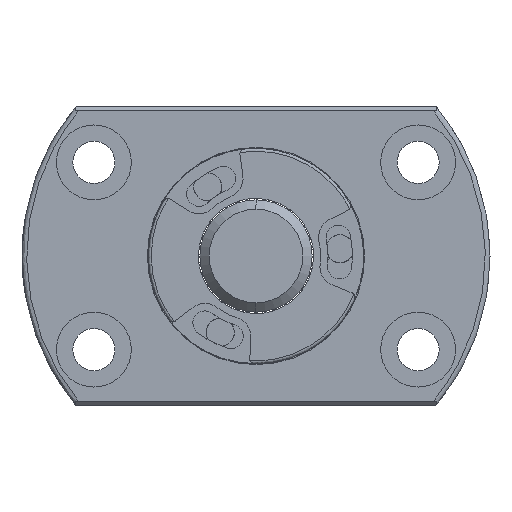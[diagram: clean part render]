
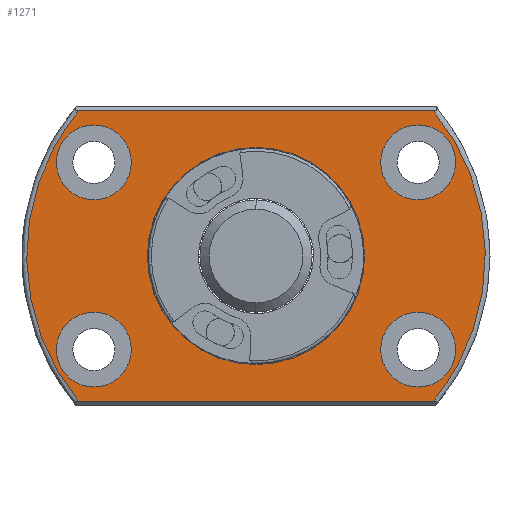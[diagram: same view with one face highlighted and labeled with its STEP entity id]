
A CAD part, left-side view. The second image highlights one B-rep face of the part: STEP entity #1271.
In plain terms, the highlighted planar face has unit normal (-1, 0, 0).
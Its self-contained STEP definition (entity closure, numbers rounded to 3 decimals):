
#17 = FACE_BOUND ( 'NONE', #4323, .T. ) ;
#93 = CARTESIAN_POINT ( 'NONE',  ( 0., 0., 0. ) ) ;
#102 = AXIS2_PLACEMENT_3D ( 'NONE', #6878, #5835, #3537 ) ;
#110 = CARTESIAN_POINT ( 'NONE',  ( 0., 26.668, -6.081 ) ) ;
#185 = DIRECTION ( 'NONE',  ( 0., 1., 0. ) ) ;
#194 = VERTEX_POINT ( 'NONE', #5589 ) ;
#229 = CARTESIAN_POINT ( 'NONE',  ( 0., 17.321, -10. ) ) ;
#290 = DIRECTION ( 'NONE',  ( 0., 0., 1. ) ) ;
#422 = CARTESIAN_POINT ( 'NONE',  ( 0., -17.321, 14. ) ) ;
#425 = EDGE_CURVE ( 'NONE', #2290, #4783, #555, .T. ) ;
#453 = EDGE_LOOP ( 'NONE', ( #4914, #2298, #5919, #2986 ) ) ;
#465 = CARTESIAN_POINT ( 'NONE',  ( 0., 17.321, 6. ) ) ;
#525 = CIRCLE ( 'NONE', #102, 4. ) ;
#541 = VERTEX_POINT ( 'NONE', #5999 ) ;
#553 = AXIS2_PLACEMENT_3D ( 'NONE', #6451, #6405, #5291 ) ;
#555 =( BOUNDED_CURVE ( )  B_SPLINE_CURVE ( 3, ( #3068, #5305, #5897, #4760 ),
 .UNSPECIFIED., .F., .T. ) 
 B_SPLINE_CURVE_WITH_KNOTS ( ( 4, 4 ),
 ( 0., 1. ),
 .UNSPECIFIED. ) 
 CURVE ( )  GEOMETRIC_REPRESENTATION_ITEM ( )  RATIONAL_B_SPLINE_CURVE ( ( 1., 0.85, 0.85, 1. ) ) 
 REPRESENTATION_ITEM ( '' )  );
#754 = CARTESIAN_POINT ( 'NONE',  ( 0., -18.974, 15.5 ) ) ;
#800 = VERTEX_POINT ( 'NONE', #1268 ) ;
#823 = EDGE_CURVE ( 'NONE', #541, #1372, #3912, .T. ) ;
#869 = DIRECTION ( 'NONE',  ( 1., 0., 0. ) ) ;
#932 = CARTESIAN_POINT ( 'NONE',  ( 0., 0., 11.6 ) ) ;
#957 = EDGE_CURVE ( 'NONE', #4023, #5797, #2105, .T. ) ;
#987 = CARTESIAN_POINT ( 'NONE',  ( 0., 18.974, 15.5 ) ) ;
#1004 = EDGE_CURVE ( 'NONE', #2942, #1881, #6048, .T. ) ;
#1013 = CARTESIAN_POINT ( 'NONE',  ( 0., -18.974, -15.5 ) ) ;
#1052 = CARTESIAN_POINT ( 'NONE',  ( 0., 17.321, -6. ) ) ;
#1055 = CIRCLE ( 'NONE', #2939, 4. ) ;
#1090 = CARTESIAN_POINT ( 'NONE',  ( 0., -17.321, -14. ) ) ;
#1126 = EDGE_LOOP ( 'NONE', ( #3880, #4126 ) ) ;
#1258 = ORIENTED_EDGE ( 'NONE', *, *, #4737, .T. ) ;
#1268 = CARTESIAN_POINT ( 'NONE',  ( 0., -17.321, 6. ) ) ;
#1271 = ADVANCED_FACE ( 'NONE', ( #2621, #1673, #17, #6314, #7103, #3585 ), #5707, .F. ) ;
#1320 = CARTESIAN_POINT ( 'NONE',  ( 0., 18.974, 15.5 ) ) ;
#1372 = VERTEX_POINT ( 'NONE', #987 ) ;
#1445 = ORIENTED_EDGE ( 'NONE', *, *, #6268, .T. ) ;
#1451 = AXIS2_PLACEMENT_3D ( 'NONE', #5298, #4150, #1868 ) ;
#1464 = VERTEX_POINT ( 'NONE', #422 ) ;
#1467 = ORIENTED_EDGE ( 'NONE', *, *, #2709, .T. ) ;
#1517 = EDGE_LOOP ( 'NONE', ( #4169, #2020 ) ) ;
#1673 = FACE_BOUND ( 'NONE', #4004, .T. ) ;
#1776 = AXIS2_PLACEMENT_3D ( 'NONE', #5568, #6529, #6110 ) ;
#1801 = AXIS2_PLACEMENT_3D ( 'NONE', #229, #3517, #4651 ) ;
#1868 = DIRECTION ( 'NONE',  ( 0., 0., 1. ) ) ;
#1881 = VERTEX_POINT ( 'NONE', #1052 ) ;
#1987 = DIRECTION ( 'NONE',  ( 0., 0., -1. ) ) ;
#2020 = ORIENTED_EDGE ( 'NONE', *, *, #6127, .F. ) ;
#2105 = CIRCLE ( 'NONE', #553, 4. ) ;
#2236 = CARTESIAN_POINT ( 'NONE',  ( 0., 0., 0. ) ) ;
#2290 = VERTEX_POINT ( 'NONE', #754 ) ;
#2297 = EDGE_CURVE ( 'NONE', #3456, #4489, #1055, .T. ) ;
#2298 = ORIENTED_EDGE ( 'NONE', *, *, #823, .F. ) ;
#2621 = FACE_OUTER_BOUND ( 'NONE', #453, .T. ) ;
#2680 = CARTESIAN_POINT ( 'NONE',  ( 0., -17.321, 10. ) ) ;
#2709 = EDGE_CURVE ( 'NONE', #5797, #4023, #4738, .T. ) ;
#2833 = ORIENTED_EDGE ( 'NONE', *, *, #1004, .T. ) ;
#2875 = VECTOR ( 'NONE', #3163, 1000. ) ;
#2926 = EDGE_LOOP ( 'NONE', ( #3541, #1467 ) ) ;
#2939 = AXIS2_PLACEMENT_3D ( 'NONE', #6969, #6380, #290 ) ;
#2942 = VERTEX_POINT ( 'NONE', #6614 ) ;
#2986 = ORIENTED_EDGE ( 'NONE', *, *, #425, .F. ) ;
#3040 = CIRCLE ( 'NONE', #4136, 11.6 ) ;
#3068 = CARTESIAN_POINT ( 'NONE',  ( 0., -18.974, 15.5 ) ) ;
#3119 = DIRECTION ( 'NONE',  ( 0., 0., 1. ) ) ;
#3163 = DIRECTION ( 'NONE',  ( 0., -1., 0. ) ) ;
#3336 = AXIS2_PLACEMENT_3D ( 'NONE', #2680, #6617, #3815 ) ;
#3393 = LINE ( 'NONE', #6862, #7171 ) ;
#3456 = VERTEX_POINT ( 'NONE', #3976 ) ;
#3517 = DIRECTION ( 'NONE',  ( 1., 0., 0. ) ) ;
#3526 = DIRECTION ( 'NONE',  ( 1., 0., 0. ) ) ;
#3531 = CARTESIAN_POINT ( 'NONE',  ( 0., 26.668, 6.081 ) ) ;
#3537 = DIRECTION ( 'NONE',  ( 0., 0., 1. ) ) ;
#3541 = ORIENTED_EDGE ( 'NONE', *, *, #957, .T. ) ;
#3569 = LINE ( 'NONE', #6447, #2875 ) ;
#3585 = FACE_BOUND ( 'NONE', #1517, .T. ) ;
#3815 = DIRECTION ( 'NONE',  ( 0., 0., 1. ) ) ;
#3880 = ORIENTED_EDGE ( 'NONE', *, *, #5293, .T. ) ;
#3902 = DIRECTION ( 'NONE',  ( -1., 0., 0. ) ) ;
#3912 =( BOUNDED_CURVE ( )  B_SPLINE_CURVE ( 3, ( #6900, #110, #3531, #1320 ),
 .UNSPECIFIED., .F., .F. ) 
 B_SPLINE_CURVE_WITH_KNOTS ( ( 4, 4 ),
 ( 0., 1. ),
 .UNSPECIFIED. ) 
 CURVE ( )  GEOMETRIC_REPRESENTATION_ITEM ( )  RATIONAL_B_SPLINE_CURVE ( ( 1., 0.85, 0.85, 1. ) ) 
 REPRESENTATION_ITEM ( '' )  );
#3914 = DIRECTION ( 'NONE',  ( -1., 0., 0. ) ) ;
#3976 = CARTESIAN_POINT ( 'NONE',  ( 0., 17.321, 14. ) ) ;
#3984 = VERTEX_POINT ( 'NONE', #932 ) ;
#3987 = DIRECTION ( 'NONE',  ( 0., 0., 1. ) ) ;
#4004 = EDGE_LOOP ( 'NONE', ( #1445, #2833 ) ) ;
#4023 = VERTEX_POINT ( 'NONE', #4402 ) ;
#4126 = ORIENTED_EDGE ( 'NONE', *, *, #6882, .T. ) ;
#4136 = AXIS2_PLACEMENT_3D ( 'NONE', #2236, #3902, #4992 ) ;
#4150 = DIRECTION ( 'NONE',  ( 1., 0., 0. ) ) ;
#4169 = ORIENTED_EDGE ( 'NONE', *, *, #6510, .F. ) ;
#4323 = EDGE_LOOP ( 'NONE', ( #6280, #1258 ) ) ;
#4402 = CARTESIAN_POINT ( 'NONE',  ( 0., -17.321, -6. ) ) ;
#4489 = VERTEX_POINT ( 'NONE', #465 ) ;
#4541 = CIRCLE ( 'NONE', #1801, 4. ) ;
#4613 = CARTESIAN_POINT ( 'NONE',  ( 0., 0., 0. ) ) ;
#4651 = DIRECTION ( 'NONE',  ( 0., 0., 1. ) ) ;
#4737 = EDGE_CURVE ( 'NONE', #4489, #3456, #525, .T. ) ;
#4738 = CIRCLE ( 'NONE', #1451, 4. ) ;
#4760 = CARTESIAN_POINT ( 'NONE',  ( 0., -18.974, -15.5 ) ) ;
#4783 = VERTEX_POINT ( 'NONE', #1013 ) ;
#4802 = AXIS2_PLACEMENT_3D ( 'NONE', #93, #3914, #3987 ) ;
#4902 = AXIS2_PLACEMENT_3D ( 'NONE', #7065, #869, #3119 ) ;
#4904 = CIRCLE ( 'NONE', #3336, 4. ) ;
#4914 = ORIENTED_EDGE ( 'NONE', *, *, #6001, .F. ) ;
#4992 = DIRECTION ( 'NONE',  ( 0., 0., 1. ) ) ;
#5095 = AXIS2_PLACEMENT_3D ( 'NONE', #4613, #3526, #1987 ) ;
#5291 = DIRECTION ( 'NONE',  ( 0., 0., 1. ) ) ;
#5293 = EDGE_CURVE ( 'NONE', #1464, #800, #4904, .T. ) ;
#5298 = CARTESIAN_POINT ( 'NONE',  ( 0., -17.321, -10. ) ) ;
#5305 = CARTESIAN_POINT ( 'NONE',  ( 0., -26.668, 6.081 ) ) ;
#5568 = CARTESIAN_POINT ( 'NONE',  ( 0., 17.321, -10. ) ) ;
#5589 = CARTESIAN_POINT ( 'NONE',  ( 0., 0., -11.6 ) ) ;
#5707 = PLANE ( 'NONE',  #5095 ) ;
#5797 = VERTEX_POINT ( 'NONE', #1090 ) ;
#5835 = DIRECTION ( 'NONE',  ( 1., 0., 0. ) ) ;
#5897 = CARTESIAN_POINT ( 'NONE',  ( 0., -26.668, -6.081 ) ) ;
#5919 = ORIENTED_EDGE ( 'NONE', *, *, #6227, .F. ) ;
#5999 = CARTESIAN_POINT ( 'NONE',  ( 0., 18.974, -15.5 ) ) ;
#6001 = EDGE_CURVE ( 'NONE', #1372, #2290, #3569, .T. ) ;
#6048 = CIRCLE ( 'NONE', #1776, 4. ) ;
#6110 = DIRECTION ( 'NONE',  ( 0., 0., 1. ) ) ;
#6127 = EDGE_CURVE ( 'NONE', #194, #3984, #6291, .T. ) ;
#6227 = EDGE_CURVE ( 'NONE', #4783, #541, #3393, .T. ) ;
#6268 = EDGE_CURVE ( 'NONE', #1881, #2942, #4541, .T. ) ;
#6280 = ORIENTED_EDGE ( 'NONE', *, *, #2297, .T. ) ;
#6291 = CIRCLE ( 'NONE', #4802, 11.6 ) ;
#6314 = FACE_BOUND ( 'NONE', #1126, .T. ) ;
#6380 = DIRECTION ( 'NONE',  ( 1., 0., 0. ) ) ;
#6405 = DIRECTION ( 'NONE',  ( 1., 0., 0. ) ) ;
#6447 = CARTESIAN_POINT ( 'NONE',  ( 0., 0., 15.5 ) ) ;
#6451 = CARTESIAN_POINT ( 'NONE',  ( 0., -17.321, -10. ) ) ;
#6458 = CIRCLE ( 'NONE', #4902, 4. ) ;
#6510 = EDGE_CURVE ( 'NONE', #3984, #194, #3040, .T. ) ;
#6529 = DIRECTION ( 'NONE',  ( 1., 0., 0. ) ) ;
#6614 = CARTESIAN_POINT ( 'NONE',  ( 0., 17.321, -14. ) ) ;
#6617 = DIRECTION ( 'NONE',  ( 1., 0., 0. ) ) ;
#6862 = CARTESIAN_POINT ( 'NONE',  ( 0., 0., -15.5 ) ) ;
#6878 = CARTESIAN_POINT ( 'NONE',  ( 0., 17.321, 10. ) ) ;
#6882 = EDGE_CURVE ( 'NONE', #800, #1464, #6458, .T. ) ;
#6900 = CARTESIAN_POINT ( 'NONE',  ( 0., 18.974, -15.5 ) ) ;
#6969 = CARTESIAN_POINT ( 'NONE',  ( 0., 17.321, 10. ) ) ;
#7065 = CARTESIAN_POINT ( 'NONE',  ( 0., -17.321, 10. ) ) ;
#7103 = FACE_BOUND ( 'NONE', #2926, .T. ) ;
#7171 = VECTOR ( 'NONE', #185, 1000. ) ;
